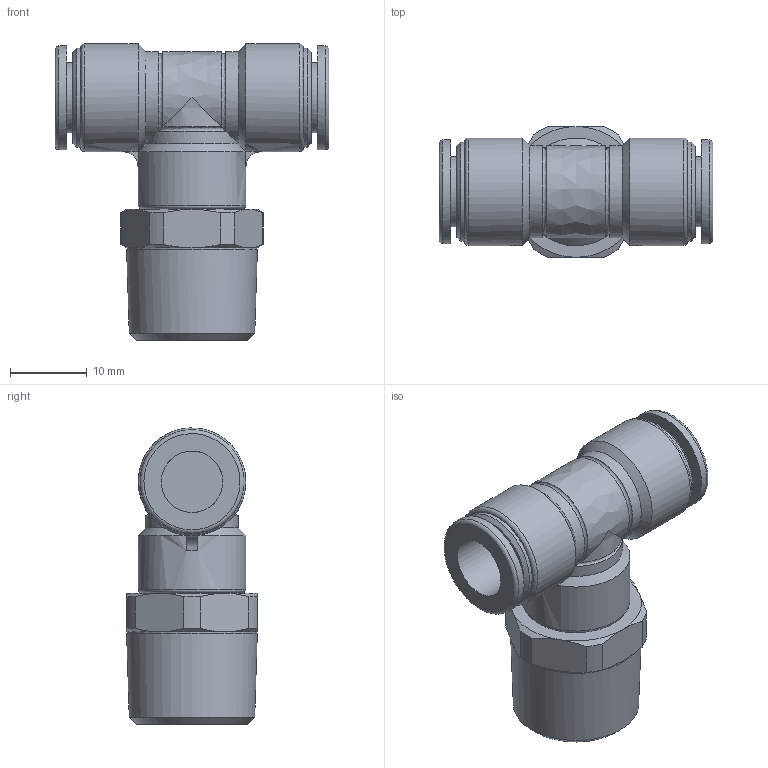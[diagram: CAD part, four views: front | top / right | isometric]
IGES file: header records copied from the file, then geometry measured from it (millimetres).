
Global section: file name: [10] FS8-03MT FS8-03MTW; native system: Autodesk Inventor 2014; preprocessor: unknown; author: kazuhiro.t; date: 20130806.165253; units: millimetre
Bounding box: 35.6 x 17 x 38.5 mm (x, y, z)
Volume: 8533.9 mm3; surface area: 4294.3 mm2
Topology: 1 solids, 1 shells, 86 faces, 205 edges, 130 vertices
Faces by surface type: bspline 86
